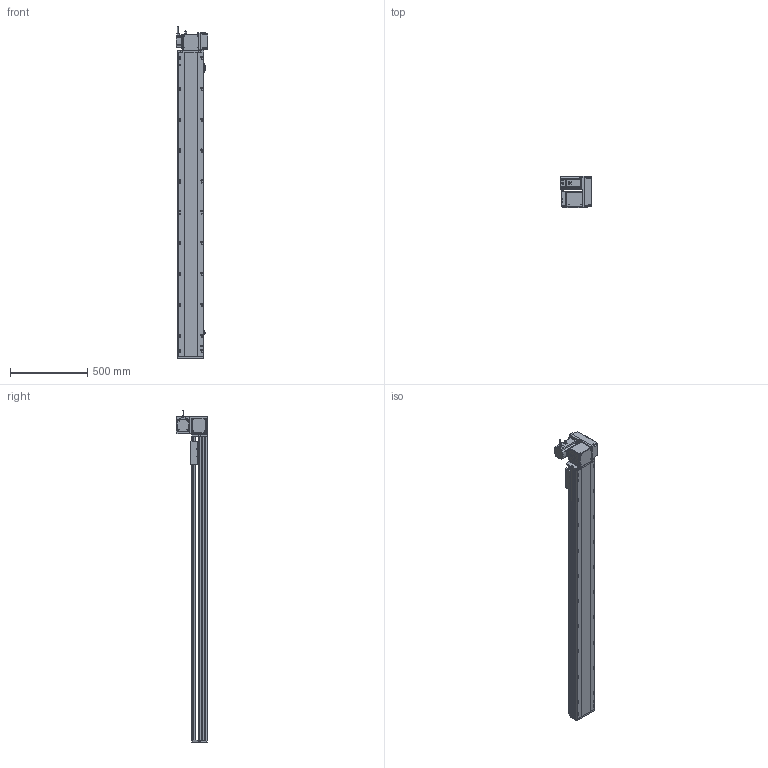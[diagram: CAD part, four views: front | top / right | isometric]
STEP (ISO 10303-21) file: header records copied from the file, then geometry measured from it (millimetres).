
FILE_DESCRIPTION (( 'STEP AP214' ), '1' );
FILE_NAME ('RTB17S-XX-1700-RW-M75-C4.STEP', '2025-12-12T02:40:05', ( '' ), ( '' ), 'SwSTEP 2.0', 'SolidWorks 2018', '' );
FILE_SCHEMA (( 'AUTOMOTIVE_DESIGN' ));
Length unit declared in the file: millimetre
Products named in the file (15): RTB17S-L-007奻裔^RTB17S-XX-XX-RW-M75-C4; RTB22S-GY-018P^RTB17S-RW-々湍釱蚾饜-750W_RTB17S-XX-XX-RW-M75-C4; RTB22S-GY-005P^RTB17S-RW-々湍釱蚾饜-750W_RTB17S-XX-XX-RW-M75-C4; RTB17S-L-001-耜醱啣^RTB17S-XX-XX-RW-M75-C4; RTB22S-GY-017P^RTB17S-RW-々湍釱蚾饜-750W_RTB17S-XX-XX-RW-M75-C4; RTH13-BL-012覜茼え俋离^RTB17S-賑釱_RTB17S-XX-XX-RW-M75-C4; RTB17S-賑釱^RTB17S-XX-XX-RW-M75-C4; RMP17S-L-014-T20-P75--々湍釱^RTB17S-RW-々湍釱蚾饜-750W_RTB17S-XX-XX-RW-M75-C4; 750W萇儂^RTB17S-XX-XX-RW-M75-C4; EE672^RTB17S-XX-XX-RW-M75-C4; RTB17S-L-004-賑釱^RTB17S-賑釱_RTB17S-XX-XX-RW-M75-C4; RTB17-R-011菁釱^RTB17S-XX-XX-RW-M75-C4; RTB17S-RW-々湍釱蚾饜-750W^RTB17S-XX-XX-RW-M75-C4; RTB17S-XX-1700-RW-M75-C4; RTB22S-GY-008-M75--萇儂啣^RTB17S-RW-々湍釱蚾饜-750W_RTB17S-XX-XX-RW-M75-C4
Assembly tree (17 placements, depth 3):
  RTB17S-XX-1700-RW-M75-C4
    RTB17-R-011菁釱^RTB17S-XX-XX-RW-M75-C4
    EE672^RTB17S-XX-XX-RW-M75-C4  x3
    RTB17S-L-001-耜醱啣^RTB17S-XX-XX-RW-M75-C4
    RTB17S-賑釱^RTB17S-XX-XX-RW-M75-C4
      RTB17S-L-004-賑釱^RTB17S-賑釱_RTB17S-XX-XX-RW-M75-C4
      RTH13-BL-012覜茼え俋离^RTB17S-賑釱_RTB17S-XX-XX-RW-M75-C4
    RTB17S-L-007奻裔^RTB17S-XX-XX-RW-M75-C4
    750W萇儂^RTB17S-XX-XX-RW-M75-C4
    RTB17S-RW-々湍釱蚾饜-750W^RTB17S-XX-XX-RW-M75-C4
      RMP17S-L-014-T20-P75--々湍釱^RTB17S-RW-々湍釱蚾饜-750W_RTB17S-XX-XX-RW-M75-C4
      RTB22S-GY-005P^RTB17S-RW-々湍釱蚾饜-750W_RTB17S-XX-XX-RW-M75-C4
      RTB22S-GY-017P^RTB17S-RW-々湍釱蚾饜-750W_RTB17S-XX-XX-RW-M75-C4  x2
      RTB22S-GY-008-M75--萇儂啣^RTB17S-RW-々湍釱蚾饜-750W_RTB17S-XX-XX-RW-M75-C4
      RTB22S-GY-018P^RTB17S-RW-々湍釱蚾饜-750W_RTB17S-XX-XX-RW-M75-C4
Bounding box: 207.4 x 201.5 x 2152.2 mm (x, y, z)
Volume: 16574329.2 mm3; surface area: 2931648.8 mm2
Topology: 17 solids, 17 shells, 2153 faces, 5998 edges, 3878 vertices
Faces by surface type: plane 978, cylinder 759, bspline 294, cone 110, sphere 8, torus 4
Entity records: 61174 total; most frequent: CARTESIAN_POINT 18062, ORIENTED_EDGE 8840, DIRECTION 8222, EDGE_CURVE 4420, AXIS2_PLACEMENT_3D 2898, VERTEX_POINT 2882, LINE 2426, VECTOR 2426
